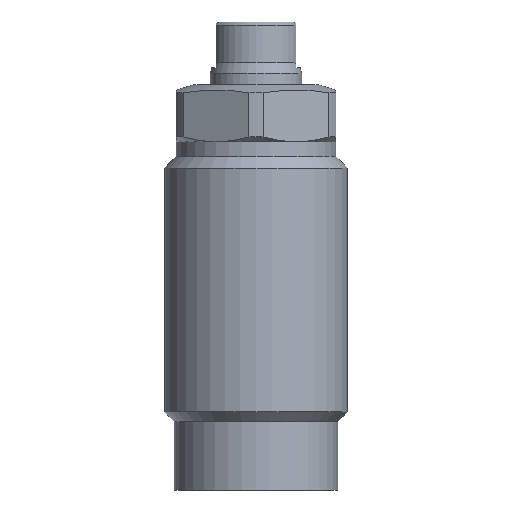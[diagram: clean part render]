
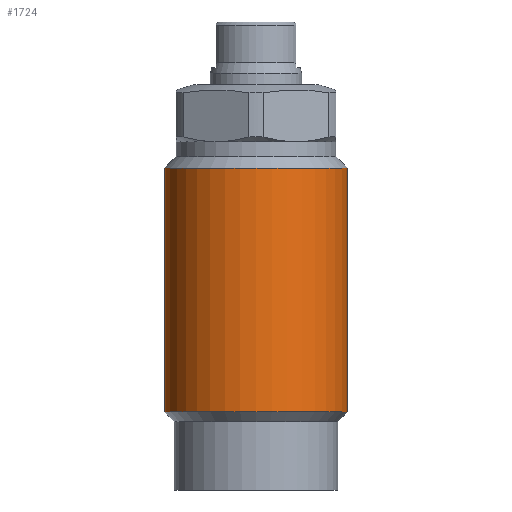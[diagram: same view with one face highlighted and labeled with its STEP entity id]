
A CAD part, front view. The second image highlights one B-rep face of the part: STEP entity #1724.
In plain terms, the highlighted cylindrical face has radius 8 mm (diameter 16 mm), a partial arc.
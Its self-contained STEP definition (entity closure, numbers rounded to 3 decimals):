
#1661=CARTESIAN_POINT('',(-8.,0.0,-28.65));
#1662=VERTEX_POINT('',#1661);
#1670=CARTESIAN_POINT('',(8.,0.0,-28.65));
#1671=VERTEX_POINT('',#1670);
#1678=CARTESIAN_POINT('',(0.0,0.0,-28.65));
#1679=DIRECTION('',(0.0,0.0,1.0));
#1680=DIRECTION('',(1.0,0.0,0.0));
#1681=AXIS2_PLACEMENT_3D('',#1678,#1679,#1680);
#1682=CIRCLE('',#1681,8.);
#1683=EDGE_CURVE('no 2335',#1662,#1671,#1682,.T.);
#1693=CARTESIAN_POINT('',(-8.,0.0,-7.3));
#1694=VERTEX_POINT('',#1693);
#1695=CARTESIAN_POINT('',(-8.,0.0,-28.65));
#1696=DIRECTION('',(0.,-0.0,1.0));
#1697=VECTOR('',#1696,1.0);
#1698=LINE('',#1695,#1697);
#1699=EDGE_CURVE('no 2345',#1662,#1694,#1698,.T.);
#1700=ORIENTED_EDGE('',*,*,#1699,.F.);
#1701=ORIENTED_EDGE('',*,*,#1683,.T.);
#1702=CARTESIAN_POINT('',(8.,0.0,-7.3));
#1703=VERTEX_POINT('',#1702);
#1704=CARTESIAN_POINT('',(8.,0.0,-28.65));
#1705=DIRECTION('',(0.,0.0,1.0));
#1706=VECTOR('',#1705,1.0);
#1707=LINE('',#1704,#1706);
#1708=EDGE_CURVE('no 2353',#1671,#1703,#1707,.T.);
#1709=ORIENTED_EDGE('',*,*,#1708,.T.);
#1710=CARTESIAN_POINT('',(0.0,0.0,-7.3));
#1711=DIRECTION('',(0.0,0.0,1.0));
#1712=DIRECTION('',(1.0,0.0,0.0));
#1713=AXIS2_PLACEMENT_3D('',#1710,#1711,#1712);
#1714=CIRCLE('',#1713,8.);
#1715=EDGE_CURVE('no 2357',#1694,#1703,#1714,.T.);
#1716=ORIENTED_EDGE('',*,*,#1715,.F.);
#1717=EDGE_LOOP('',(#1700,#1701,#1709,#1716));
#1718=FACE_OUTER_BOUND('',#1717,.T.);
#1719=CARTESIAN_POINT('',(0.0,0.0,8.838));
#1720=DIRECTION('',(0.0,0.0,1.0));
#1721=DIRECTION('',(0.0,1.0,0.0));
#1722=AXIS2_PLACEMENT_3D('',#1719,#1720,#1721);
#1723=CYLINDRICAL_SURFACE('',#1722,8.);
#1724=ADVANCED_FACE('no 2338',(#1718),#1723,.T.);
